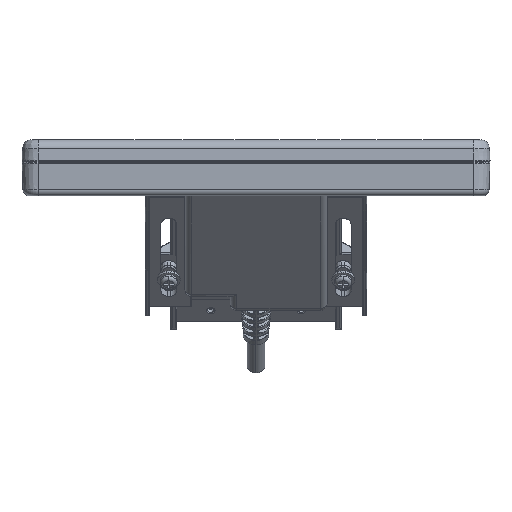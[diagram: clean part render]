
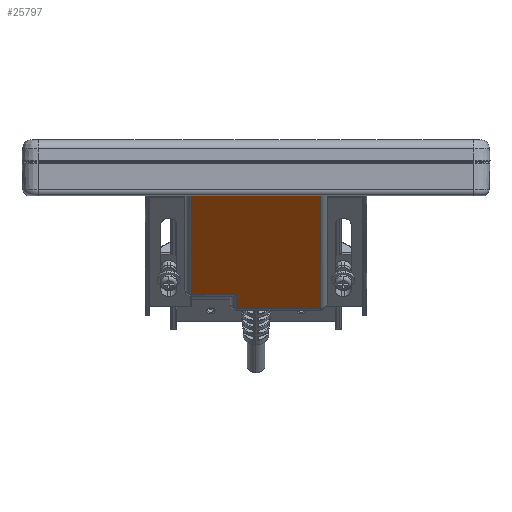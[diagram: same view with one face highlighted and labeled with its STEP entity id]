
A CAD part, front view. The second image highlights one B-rep face of the part: STEP entity #25797.
In plain terms, the highlighted planar face has unit normal (0, -0.707, -0.707).
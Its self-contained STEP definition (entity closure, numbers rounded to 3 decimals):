
#3919=DIRECTION('',(1.,0.,0.));
#3920=VECTOR('',#3919,40.);
#3921=CARTESIAN_POINT('',(-20.,-5.784,-10.7));
#3922=LINE('',#3921,#3920);
#3923=DIRECTION('',(0.,0.707,-0.707));
#3924=VECTOR('',#3923,43.184);
#3925=CARTESIAN_POINT('',(-20.,-5.784,-10.7));
#3926=LINE('',#3925,#3924);
#3950=DIRECTION('',(1.,0.,0.));
#3951=VECTOR('',#3950,14.);
#3952=CARTESIAN_POINT('',(-20.,24.751,-41.236));
#3953=LINE('',#3952,#3951);
#3958=DIRECTION('',(0.,0.707,-0.707));
#3959=VECTOR('',#3958,6.2);
#3960=CARTESIAN_POINT('',(-6.,24.751,
-41.236));
#3961=LINE('',#3960,#3959);
#3989=DIRECTION('',(1.,0.,0.));
#3990=VECTOR('',#3989,26.);
#3991=CARTESIAN_POINT('',(-6.,29.135,
-45.62));
#3992=LINE('',#3991,#3990);
#4034=DIRECTION('',(0.,-0.707,0.707));
#4035=VECTOR('',#4034,49.384);
#4036=CARTESIAN_POINT('',(20.,29.135,-45.62));
#4037=LINE('',#4036,#4035);
#17003=CARTESIAN_POINT('',(-20.,-5.784,-10.7));
#17004=CARTESIAN_POINT('',(20.,-5.784,-10.7));
#17005=VERTEX_POINT('',#17003);
#17006=VERTEX_POINT('',#17004);
#17007=CARTESIAN_POINT('',(-20.,24.751,-41.236));
#17008=VERTEX_POINT('',#17007);
#17014=CARTESIAN_POINT('',(-6.,24.751,
-41.236));
#17015=VERTEX_POINT('',#17014);
#17018=CARTESIAN_POINT('',(-6.,29.135,
-45.62));
#17019=VERTEX_POINT('',#17018);
#17025=CARTESIAN_POINT('',(20.,29.135,
-45.62));
#17026=VERTEX_POINT('',#17025);
#25779=CARTESIAN_POINT('',(0.,11.676,
-28.16));
#25780=DIRECTION('',(0.,0.707,0.707));
#25781=DIRECTION('',(0.,0.707,-0.707));
#25782=AXIS2_PLACEMENT_3D('',#25779,#25780,#25781);
#25783=PLANE('',#25782);
#25785=ORIENTED_EDGE('',*,*,#25784,.F.);
#25786=ORIENTED_EDGE('',*,*,#25717,.T.);
#25788=ORIENTED_EDGE('',*,*,#25787,.F.);
#25790=ORIENTED_EDGE('',*,*,#25789,.F.);
#25792=ORIENTED_EDGE('',*,*,#25791,.F.);
#25794=ORIENTED_EDGE('',*,*,#25793,.F.);
#25795=EDGE_LOOP('',(#25785,#25786,#25788,#25790,#25792,#25794));
#25796=FACE_OUTER_BOUND('',#25795,.F.);
#25797=ADVANCED_FACE('',(#25796),#25783,.F.);
#25717=EDGE_CURVE('',#17005,#17006,#3922,.T.);
#25784=EDGE_CURVE('',#17005,#17008,#3926,.T.);
#25787=EDGE_CURVE('',#17026,#17006,#4037,.T.);
#25789=EDGE_CURVE('',#17019,#17026,#3992,.T.);
#25791=EDGE_CURVE('',#17015,#17019,#3961,.T.);
#25793=EDGE_CURVE('',#17008,#17015,#3953,.T.);
